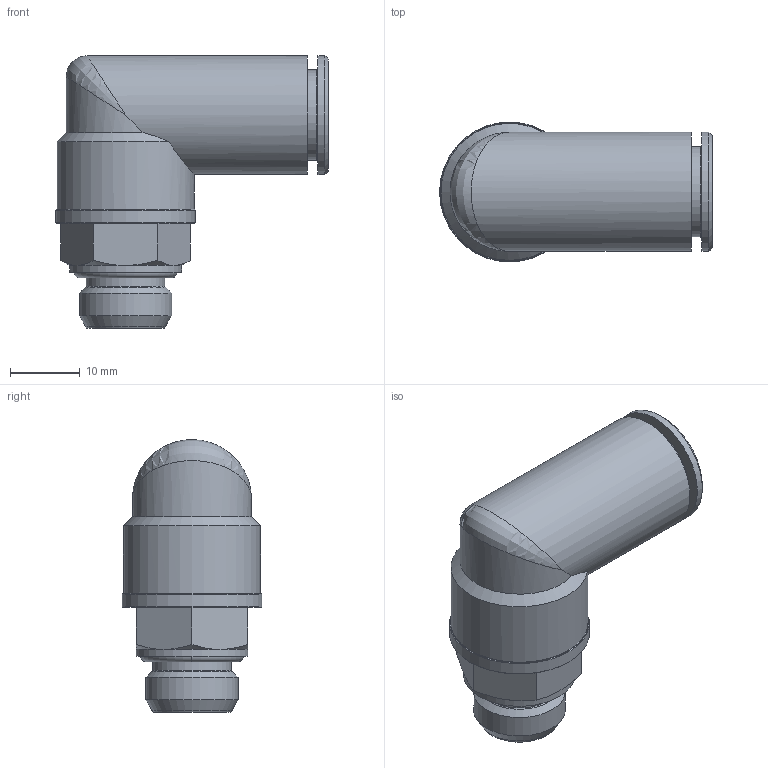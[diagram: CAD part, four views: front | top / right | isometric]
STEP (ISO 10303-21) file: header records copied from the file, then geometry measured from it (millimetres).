
FILE_DESCRIPTION(('Bauteilbeschreibung','HiCAD-Model','HiCAD-STEP-TRANSLATION','Bauteilbeschreibung'),'2;1');
FILE_NAME('B:/ABGLEICH/ZEICHNUNGEN/STEP FÜR INTERNET/STEP/IPSO 022/202210_IPSO_022_12_1-4.STP','2012-02-07T14:29:18+00:00',('Konstrukteur'),('Konstrukteur Firma GmbH'),' HiCAD neXt 2008, Step 3.1.1401.2J ','HiCAD neXt 2008','confidential');
FILE_SCHEMA(('AUTOMOTIVE_DESIGN { 1 2 10303 214 0 1 1 1 }'));
Length unit declared in the file: millimetre
Products named in the file (7): A02210_IPSO_022_12_1_4; OR 11_11X1_78; DR12_5; A14606_GEW__3_8_1_4; A146060GEW003080104; G 1_4; R202210
Assembly tree (6 placements, depth 3):
  A02210_IPSO_022_12_1_4
    OR 11_11X1_78
    DR12_5
    A14606_GEW__3_8_1_4
    A146060GEW003080104
      G 1_4
    R202210
Bounding box: 39 x 20 x 39 mm (x, y, z)
Volume: 7313.1 mm3; surface area: 8441.3 mm2
Topology: 5 solids, 5 shells, 79 faces, 165 edges, 97 vertices
Faces by surface type: cone 26, cylinder 23, plane 20, torus 8, sphere 1, bspline 1
Full cylindrical faces by diameter (mm): 8.5 x1, 10 x1, 11.2 x1, 11.445 x2, 12.15 x1, 12.25 x1, 12.9 x1, 13 x1, 13.157 x1, 14.5 x1, 14.7 x1, 15.2 x1, 15.8 x2, 16 x1, 17 x4, 19.6 x1, 20 x1
Entity records: 3309 total; most frequent: CARTESIAN_POINT 1235, DIRECTION 342, ORIENTED_EDGE 212, AXIS2_PLACEMENT_3D 165, EDGE_LOOP 138, EDGE_CURVE 106, COLOUR_RGB 96, PRESENTATION_STYLE_ASSIGNMENT 96
